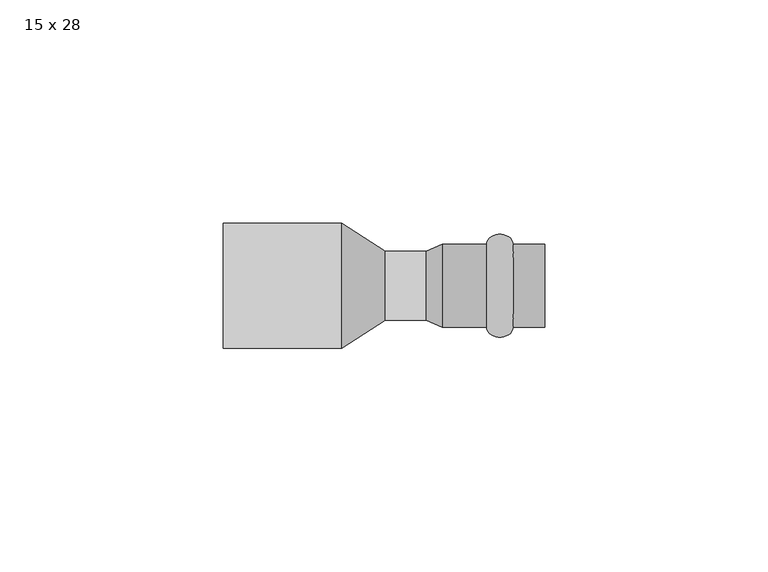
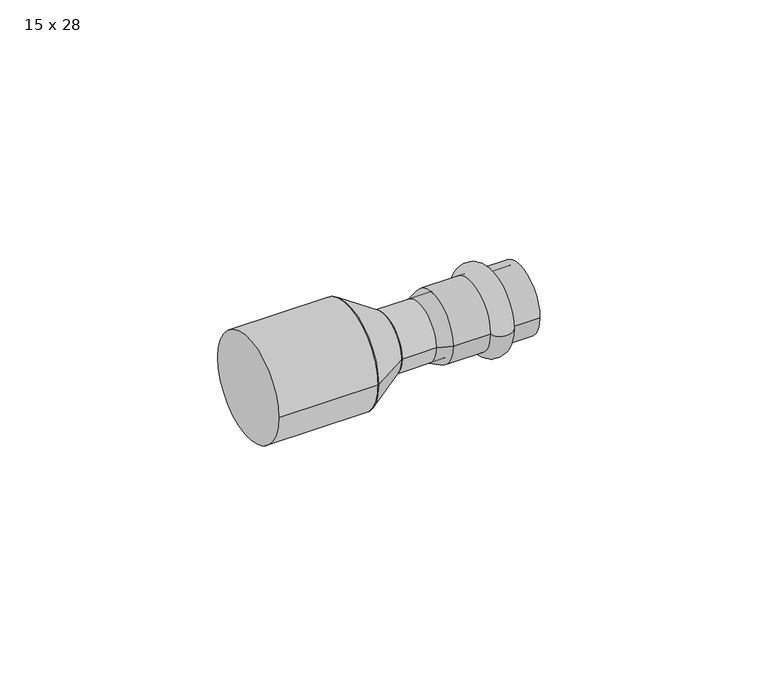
"""IFC4 building model written with IfcOpenShell, lengths in millimetres: pipe fitting geometry, РЕХАУ_Пресс Вставка переходная : 15 x 28."""

from ifc_helpers import new_model, si_unit, point, frame, origin, origin_2d, place, context, project, spatial, polyline, circle_curve, ellipse_curve, trimmed, segment, composite_curve, outline, extrude, source, transform, mapped, element, save
from ifc_brep_helpers import plane_surface, cylinder_surface, revolved_surface, advanced_brep


def pipe_fitting_15_x_28_a449d90f(model_context):
    return source(origin(), model_context, "Body", "SolidModel", [
        advanced_brep(
        [(64.9, 9.25, 0.0), (64.9, -9.25, 0.0), (59.0, -9.25, 0.0), (59.0, 9.25, 0.0)],
        [
            (0, 1, circle_curve(frame((64.9, 0.0, 0.0), z_axis=(1.0, 0.0, 0.0), x_axis=(0.0, -1.0, 0.0)), 9.25)),
            (1, 2),
            (2, 3, circle_curve(frame((59.0, 0.0, 0.0), z_axis=(-1.0, 0.0, 0.0), x_axis=(0.0, -1.0, 0.0)), 9.25)),
            (3, 0),
            (1, 0, circle_curve(frame((64.9, 0.0, 0.0), z_axis=(1.0, 0.0, 0.0), x_axis=(0.0, -1.0, 0.0)), 9.25)),
            (3, 2, circle_curve(frame((59.0, 0.0, 0.0), z_axis=(-1.0, 0.0, 0.0), x_axis=(0.0, -1.0, 0.0)), 9.25)),
            (2, 1, ellipse_curve(frame((61.95, -9.25, 0.0), z_axis=(0.0, 0.0, 1.0), x_axis=(1.0, 0.0, 0.0)), 2.95, 2.3)),
            (0, 3, ellipse_curve(frame((61.95, 9.25, 0.0), z_axis=(0.0, 0.0, 1.0), x_axis=(1.0, 0.0, 0.0)), 2.95, 2.3)),
        ],
        [
            revolved_surface(polyline([(59.0, -9.25, 0.0), (64.9, -9.25, 0.0)]), (46.0, 0.0, 0.0), (-1.0, 0.0, 0.0)),
            revolved_surface(trimmed(ellipse_curve(frame((61.95, -9.25, 0.0), z_axis=(0.0, 0.0, -1.0), x_axis=(1.0, 0.0, 0.0)), 2.95, 2.3), [point((64.9, -9.25, 0.0))], [point((59.0, -9.25, 0.0))], True, "CARTESIAN"), (46.0, 0.0, 0.0), (-1.0, 0.0, 0.0)),
        ],
        [
            (0, [[1, 2, 3, 4]]),
            (0, [[5, -4, 6, -2]]),
            (1, [[-3, 7, -1, 8]]),
            (1, [[-6, -8, -5, -7]]),
        ],
    ),
        advanced_brep(
        [(45.4662215, 7.75, 0.0), (45.4662215, -7.75, 0.0), (49.0, -9.25, 0.0), (49.0, 9.25, 0.0), (72.0, 7.75, 0.0), (72.0, -7.75, 0.0), (72.0, 9.25, 0.0), (72.0, -9.25, 0.0)],
        [
            (0, 1, circle_curve(frame((45.4662215, 0.0, 0.0), z_axis=(1.0, 0.0, 0.0), x_axis=(0.0, -1.0, 0.0)), 7.75)),
            (1, 2),
            (2, 3, circle_curve(frame((49.0, 0.0, 0.0), z_axis=(-1.0, 0.0, 0.0), x_axis=(0.0, -1.0, 0.0)), 9.25)),
            (3, 0),
            (1, 0, circle_curve(frame((45.4662215, 0.0, 0.0), z_axis=(1.0, 0.0, 0.0), x_axis=(0.0, -1.0, 0.0)), 7.75)),
            (3, 2, circle_curve(frame((49.0, 0.0, 0.0), z_axis=(-1.0, 0.0, 0.0), x_axis=(0.0, -1.0, 0.0)), 9.25)),
            (4, 5, circle_curve(frame((72.0, 0.0, 0.0), z_axis=(1.0, 0.0, 0.0), x_axis=(0.0, -1.0, 0.0)), 7.75)),
            (5, 1),
            (0, 4),
            (5, 4, circle_curve(frame((72.0, 0.0, 0.0), z_axis=(1.0, 0.0, 0.0), x_axis=(0.0, -1.0, 0.0)), 7.75)),
            (6, 7, circle_curve(frame((72.0, 0.0, 0.0), z_axis=(1.0, 0.0, 0.0), x_axis=(0.0, -1.0, 0.0)), 9.25)),
            (7, 5),
            (4, 6),
            (7, 6, circle_curve(frame((72.0, 0.0, 0.0), z_axis=(1.0, 0.0, 0.0), x_axis=(0.0, -1.0, 0.0)), 9.25)),
            (2, 7),
            (6, 3),
        ],
        [
            revolved_surface(polyline([(49.0, -9.25, 0.0), (45.4662215, -7.75, 0.0)]), (46.0, 0.0, 0.0), (-1.0, 0.0, 0.0)),
            revolved_surface(polyline([(45.4662215, -7.75, 0.0), (72.0, -7.75, 0.0)]), (46.0, 0.0, 0.0), (-1.0, 0.0, 0.0)),
            plane_surface(frame((72.0, 0.0, 0.0), z_axis=(1.0, 0.0, 0.0), x_axis=(0.0, -1.0, 0.0))),
            cylinder_surface(frame((46.0, 0.0, 0.0), z_axis=(-1.0, 0.0, 0.0), x_axis=(0.0, -1.0, 0.0)), 9.25),
        ],
        [
            (0, [[1, 2, 3, 4]]),
            (0, [[5, -4, 6, -2]]),
            (1, [[7, 8, -1, 9]]),
            (1, [[10, -9, -5, -8]]),
            (2, [[11, 12, -7, 13]]),
            (2, [[14, -13, -10, -12]]),
            (3, [[-3, 15, -11, 16]]),
            (3, [[-6, -16, -14, -15]]),
        ],
    ),
        extrude(outline(composite_curve([segment(trimmed(circle_curve(origin_2d(), 7.75), [point((-7.75, 0.0))], [point((7.75, 0.0))], False, "CARTESIAN"), True, "CONTINUOUS"), segment(trimmed(circle_curve(origin_2d(), 7.75), [point((7.75, 0.0))], [point((-7.75, 0.0))], False, "CARTESIAN"), True, "CONTINUOUS")], self_intersect=False)), frame((36.3, 0.0, 0.0), z_axis=(1.0, 0.0, 0.0), x_axis=(0.0, 1.0, 0.0)), (0.0, 0.0, 1.0), 12.7),
        advanced_brep(
        [(36.3, -7.75, 0.0), (36.3, 7.75, 0.0), (26.5, -14.0, 0.0), (26.5, 14.0, 0.0)],
        [
            (0, 1, circle_curve(frame((36.3, 0.0, 0.0), z_axis=(1.0, 0.0, 0.0), x_axis=(0.0, -1.0, 0.0)), 7.75)),
            (1, 0, circle_curve(frame((36.3, 0.0, 0.0), z_axis=(1.0, 0.0, 0.0), x_axis=(0.0, 1.0, 0.0)), 7.75)),
            (2, 3, circle_curve(frame((26.5, 0.0, 0.0), z_axis=(-1.0, 0.0, 0.0), x_axis=(0.0, 1.0, 0.0)), 14.0)),
            (3, 2, circle_curve(frame((26.5, 0.0, 0.0), z_axis=(-1.0, 0.0, 0.0), x_axis=(0.0, -1.0, 0.0)), 14.0)),
            (3, 1),
            (0, 2),
        ],
        [
            plane_surface(frame((36.3, 0.0, 0.0), z_axis=(1.0, 0.0, 0.0), x_axis=(0.0, 0.0, -1.0))),
            plane_surface(frame((26.5, 0.0, 0.0), z_axis=(-1.0, 0.0, 0.0), x_axis=(0.0, 0.0, -1.0))),
            revolved_surface(polyline([(36.3, -7.750000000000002, 0.0), (26.5, -14.0, 0.0)]), (48.452, 0.0, 0.0), (-1.0, 0.0, 0.0)),
            revolved_surface(polyline([(36.3, 7.750000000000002, 0.0), (26.5, 14.0, 0.0)]), (48.452, 0.0, 0.0), (-1.0, 0.0, 0.0)),
        ],
        [
            (0, [[1, 2]]),
            (1, [[3, 4]]),
            (2, [[-4, 5, -1, 6]]),
            (3, [[-3, -6, -2, -5]]),
        ],
    ),
        extrude(outline(composite_curve([segment(trimmed(circle_curve(origin_2d(), 14.0), [point((-14.0, 0.0))], [point((14.0, 0.0))], False, "CARTESIAN"), True, "CONTINUOUS"), segment(trimmed(circle_curve(origin_2d(), 14.0), [point((14.0, 0.0))], [point((-14.0, 0.0))], False, "CARTESIAN"), True, "CONTINUOUS")], self_intersect=False)), frame((0.0, 0.0, 0.0), z_axis=(1.0, 0.0, 0.0), x_axis=(0.0, 1.0, 0.0)), (0.0, 0.0, 1.0), 26.5),
    ])


if __name__ == "__main__":
    model = new_model("IFC4")
    model_context = context("Model", 3, world=origin())
    ifc_project = project(units=[si_unit("LENGTHUNIT", "METRE", prefix="MILLI")], contexts=[model_context])
    site = spatial("IfcSite", under=ifc_project)
    building = spatial("IfcBuilding", under=site)
    placement = place(None, origin())
    pipe_fitting_15_x_28_shape = pipe_fitting_15_x_28_a449d90f(model_context)
    element("IfcPipeFitting", 1, ObjectType="РЕХАУ_Пресс Вставка переходная : 15 x 28", at=placement, inside=building, context=model_context, shape_type="MappedRepresentation", body=[
        mapped(pipe_fitting_15_x_28_shape, transform((0.0, 0.0, 0.0), x_axis=(1.0, 0.0, 0.0), y_axis=(0.0, 1.0, 0.0), z_axis=(0.0, 0.0, 1.0))),
    ])
    save(model, "model.ifc")
